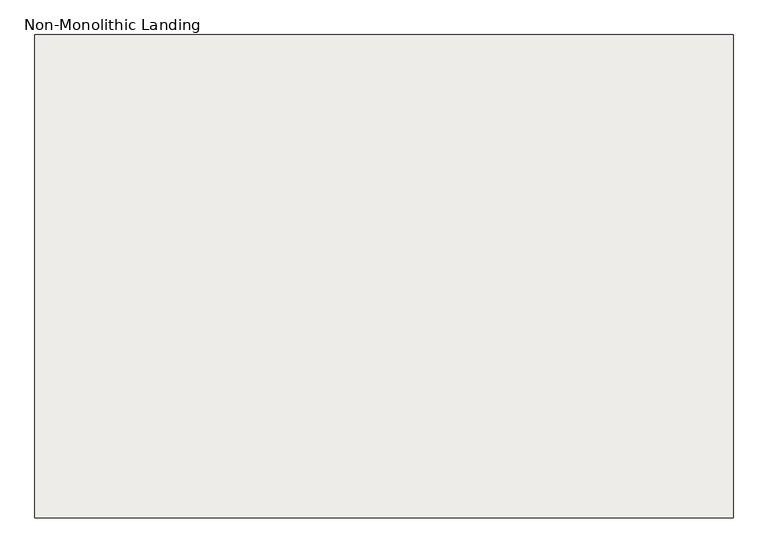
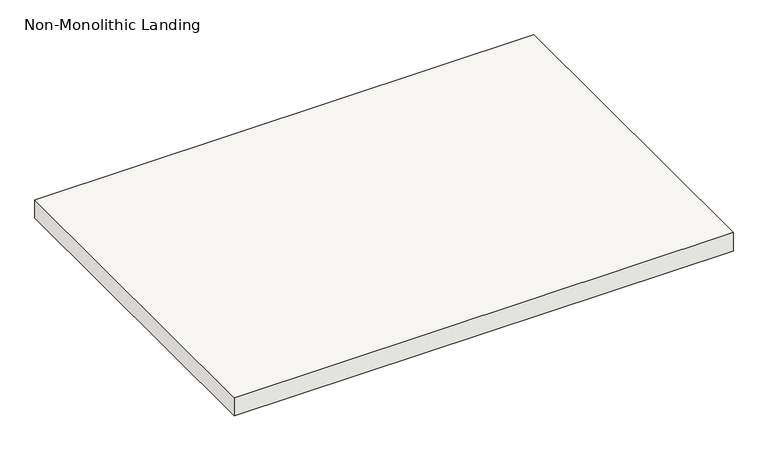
"""IFC4 building model written with IfcOpenShell, lengths in millimetres: slab geometry, Non-Monolithic Landing."""

from ifc_helpers import new_model, si_unit, frame, origin, place, context, project, spatial, polyline, outline, extrude, source, transform, mapped, element, save


def non_monolithic_landing_72148590(model_context):
    return source(origin(), model_context, "Body", "SweptSolid", [
        extrude(outline(polyline([(1098.5536861, 29614.9361774), (2419.3536861, 29614.9361774), (2419.3536861, 28700.5361774), (1098.5536861, 28700.5361774), (1098.5536861, 29614.9361774)])), frame((0.0, 0.0, 2126.3428571), z_axis=(0.0, 0.0, 1.0), x_axis=(1.0, 0.0, 0.0)), (0.0, 0.0, 1.0), 50.8),
    ])


if __name__ == "__main__":
    model = new_model("IFC4")
    model_context = context("Model", 3, world=origin())
    ifc_project = project(units=[si_unit("LENGTHUNIT", "METRE", prefix="MILLI")], contexts=[model_context])
    site = spatial("IfcSite", under=ifc_project)
    building = spatial("IfcBuilding", under=site)
    placement = place(None, origin())
    non_monolithic_landing_shape = non_monolithic_landing_72148590(model_context)
    element("IfcSlab", 1, ObjectType="Non-Monolithic Landing", at=placement, inside=building, context=model_context, shape_type="MappedRepresentation", body=[
        mapped(non_monolithic_landing_shape, transform((0.0, 0.0, 0.0), x_axis=(1.0, 0.0, 0.0), y_axis=(0.0, 1.0, 0.0), z_axis=(0.0, 0.0, 1.0))),
    ])
    save(model, "model.ifc")
